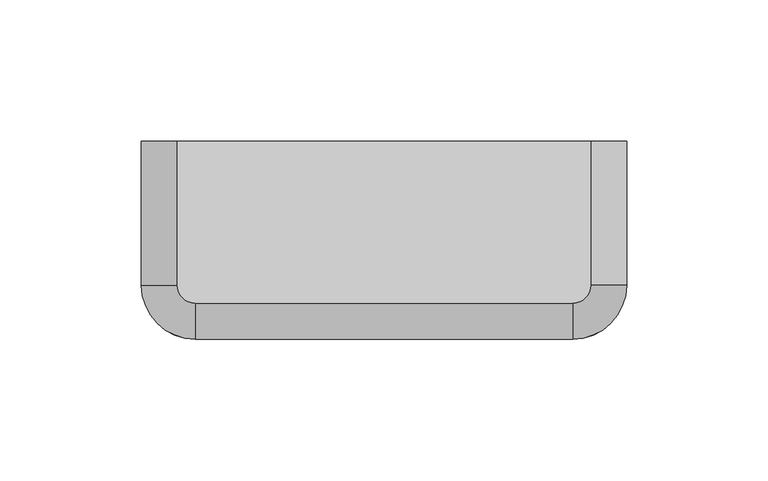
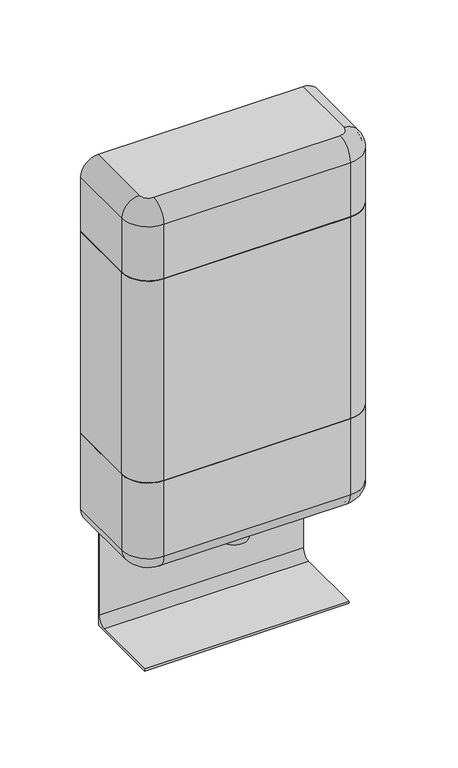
"""IFC4 building model written with IfcOpenShell, lengths in millimetres: proxy geometry, A5077 Dispenser_Hand Sanitzer, Hands free : A5077 Dispenser_Hand Sanitzer, Hands free."""

from ifc_helpers import new_model, si_unit, point, frame, frame_2d, origin, place, context, project, spatial, polyline, circle_curve, ellipse_curve, trimmed, segment, composite_curve, outline, extrude, source, transform, mapped, element, save
from ifc_brep_helpers import plane_surface, cylinder_surface, revolved_surface, advanced_brep


def specialty_equipment_6e2372c1(model_context):
    return source(origin(), model_context, "Body", "SolidModel", [
        extrude(outline(composite_curve([segment(polyline([(-57.15, 0.0), (-57.15, 1.5875), (-7.14375, 1.5875)]), True, "CONTINUOUS"), segment(trimmed(circle_curve(frame_2d((-7.14375, 7.9375)), 6.35), [point((-7.14375, 1.5875))], [point((-0.79375, 7.9375))], True, "CARTESIAN"), True, "CONTINUOUS"), segment(polyline([(-0.79375, 7.9375), (-0.79375, 80.9625), (0.0, 80.9625), (0.0, 0.0), (-57.15, 0.0)]), True, "CONTINUOUS")], self_intersect=False)), frame((-73.025, 0.0, 0.0), z_axis=(1.0, 0.0, 0.0), x_axis=(0.0, 1.0, 0.0)), (0.0, 0.0, 1.0), 146.05),
        advanced_brep(
        [(-85.725, 0.0, 92.075), (-85.725, 0.0, 149.225), (-84.1375, 0.0, 149.225), (-84.1375, 0.0, 92.075), (-73.025, 0.0, 80.9625), (-73.025, 0.0, 79.375), (-85.725, -50.8, 92.075), (-85.725, -50.8, 149.225), (-66.675, -69.85, 149.225), (66.675, -69.85, 149.225), (85.725, -50.8, 149.225), (85.725, 0.0, 149.225), (84.1375, 0.0, 149.225), (84.1375, -50.8, 149.225), (66.675, -68.2625, 149.225), (-66.675, -68.2625, 149.225), (-84.1375, -50.8, 149.225), (-84.1375, -50.8, 92.075), (-73.025, -50.8, 80.9625), (-73.025, -50.8, 79.375), (-66.675, -69.85, 92.075), (-66.675, -68.2625, 92.075), (-66.675, -57.15, 80.9625), (-66.675, -57.15, 79.375), (66.675, -69.85, 92.075), (66.675, -68.2625, 92.075), (66.675, -57.15, 80.9625), (66.675, -57.15, 79.375), (85.725, -50.8, 92.075), (84.1375, -50.8, 92.075), (73.025, -50.8, 80.9625), (73.025, -50.8, 79.375), (85.725, 0.0, 92.075), (73.025, 0.0, 79.375), (73.025, 0.0, 80.9625), (84.1375, 0.0, 92.075)],
        [
            (0, 1),
            (1, 2),
            (2, 3),
            (3, 4, circle_curve(frame((-73.025, 0.0, 92.075), z_axis=(0.0, -1.0, 0.0), x_axis=(1.0, 0.0, 0.0)), 11.1125)),
            (4, 5),
            (5, 0, circle_curve(frame((-73.025, 0.0, 92.075), z_axis=(0.0, 1.0, 0.0), x_axis=(1.0, 0.0, 0.0)), 12.7)),
            (0, 6),
            (6, 7),
            (7, 1),
            (7, 8, circle_curve(frame((-66.675, -50.8, 149.225), z_axis=(0.0, 0.0, 1.0), x_axis=(-1.0, 0.0, 0.0)), 19.05)),
            (8, 9),
            (9, 10, circle_curve(frame((66.675, -50.8, 149.225), z_axis=(0.0, 0.0, 1.0), x_axis=(0.0, -1.0, 0.0)), 19.05)),
            (10, 11),
            (11, 12),
            (12, 13),
            (13, 14, circle_curve(frame((66.675, -50.8, 149.225), z_axis=(0.0, 0.0, -1.0), x_axis=(0.0, -1.0, 0.0)), 17.4625)),
            (14, 15),
            (15, 16, circle_curve(frame((-66.675, -50.8, 149.225), z_axis=(0.0, 0.0, -1.0), x_axis=(-1.0, 0.0, 0.0)), 17.4625)),
            (16, 2),
            (16, 17),
            (17, 3),
            (17, 18, circle_curve(frame((-73.025, -50.8, 92.075), z_axis=(0.0, -1.0, 0.0), x_axis=(1.0, 0.0, 0.0)), 11.1125)),
            (18, 4),
            (18, 19),
            (19, 5),
            (19, 6, circle_curve(frame((-73.025, -50.8, 92.075), z_axis=(0.0, 1.0, 0.0), x_axis=(1.0, 0.0, 0.0)), 12.7)),
            (6, 20, circle_curve(frame((-66.675, -50.8, 92.075), z_axis=(0.0, 0.0, 1.0), x_axis=(-1.0, 0.0, 0.0)), 19.05)),
            (20, 8),
            (21, 17, circle_curve(frame((-66.675, -50.8, 92.075), z_axis=(0.0, 0.0, -1.0), x_axis=(-1.0, 0.0, 0.0)), 17.4625)),
            (15, 21),
            (22, 18, circle_curve(frame((-66.675, -50.8, 80.9625), z_axis=(0.0, 0.0, -1.0), x_axis=(-1.0, 0.0, 0.0)), 6.35)),
            (21, 22, circle_curve(frame((-66.675, -57.15, 92.075), z_axis=(1.0, 0.0, 0.0), x_axis=(0.0, 1.0, 0.0)), 11.1125)),
            (23, 19, circle_curve(frame((-66.675, -50.8, 79.375), z_axis=(0.0, 0.0, -1.0), x_axis=(-1.0, 0.0, 0.0)), 6.35)),
            (22, 23),
            (23, 20, circle_curve(frame((-66.675, -57.15, 92.075), z_axis=(-1.0, 0.0, 0.0), x_axis=(0.0, 1.0, 0.0)), 12.7)),
            (20, 24),
            (24, 9),
            (14, 25),
            (25, 21),
            (25, 26, circle_curve(frame((66.675, -57.15, 92.075), z_axis=(1.0, 0.0, 0.0), x_axis=(0.0, 1.0, 0.0)), 11.1125)),
            (26, 22),
            (26, 27),
            (27, 23),
            (27, 24, circle_curve(frame((66.675, -57.15, 92.075), z_axis=(-1.0, 0.0, 0.0), x_axis=(0.0, 1.0, 0.0)), 12.7)),
            (24, 28, circle_curve(frame((66.675, -50.8, 92.075), z_axis=(0.0, 0.0, 1.0), x_axis=(0.0, -1.0, 0.0)), 19.05)),
            (28, 10),
            (29, 25, circle_curve(frame((66.675, -50.8, 92.075), z_axis=(0.0, 0.0, -1.0), x_axis=(0.0, -1.0, 0.0)), 17.4625)),
            (13, 29),
            (30, 26, circle_curve(frame((66.675, -50.8, 80.9625), z_axis=(0.0, 0.0, -1.0), x_axis=(0.0, -1.0, 0.0)), 6.35)),
            (29, 30, circle_curve(frame((73.025, -50.8, 92.075), z_axis=(0.0, 1.0, 0.0), x_axis=(-1.0, 0.0, 0.0)), 11.1125)),
            (31, 27, circle_curve(frame((66.675, -50.8, 79.375), z_axis=(0.0, 0.0, -1.0), x_axis=(0.0, -1.0, 0.0)), 6.35)),
            (30, 31),
            (31, 28, circle_curve(frame((73.025, -50.8, 92.075), z_axis=(0.0, -1.0, 0.0), x_axis=(-1.0, 0.0, 0.0)), 12.7)),
            (32, 33, circle_curve(frame((73.025, 0.0, 92.075), z_axis=(0.0, 1.0, 0.0), x_axis=(-1.0, 0.0, 0.0)), 12.7)),
            (33, 34),
            (34, 35, circle_curve(frame((73.025, 0.0, 92.075), z_axis=(0.0, -1.0, 0.0), x_axis=(-1.0, 0.0, 0.0)), 11.1125)),
            (35, 12),
            (11, 32),
            (28, 32),
            (35, 29),
            (34, 30),
            (33, 31),
        ],
        [
            plane_surface(frame((-85.725, 0.0, 79.375), z_axis=(0.0, 1.0, 0.0), x_axis=(0.0, 0.0, 1.0))),
            plane_surface(frame((-85.725, 0.0, 92.075), z_axis=(-1.0, 0.0, 0.0), x_axis=(0.0, -1.0, 0.0))),
            plane_surface(frame((-85.725, 0.0, 149.225), z_axis=(0.0, 0.0, 1.0), x_axis=(0.0, -1.0, 0.0))),
            plane_surface(frame((-84.1375, 0.0, 149.225), z_axis=(1.0, 0.0, 0.0), x_axis=(0.0, -1.0, 0.0))),
            revolved_surface(polyline([(-61.91250000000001, -50.8, 92.075), (-61.91250000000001, 0.0, 92.075)]), (-73.025, 0.0, 92.075), (0.0, -1.0, 0.0)),
            plane_surface(frame((-73.025, 0.0, 80.9625), z_axis=(1.0, 0.0, 0.0), x_axis=(0.0, -1.0, 0.0))),
            cylinder_surface(frame((-73.025, 0.0, 92.075), z_axis=(0.0, 1.0, 0.0), x_axis=(1.0, 0.0, 0.0)), 12.7),
            cylinder_surface(frame((-66.675, -50.8, 79.375), z_axis=(0.0, 0.0, 1.0), x_axis=(-1.0, 0.0, 0.0)), 19.05),
            revolved_surface(polyline([(-84.13749999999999, -50.8, 149.225), (-84.13749999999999, -50.8, 92.075)]), (-66.675, -50.8, 79.375), (0.0, 0.0, 1.0)),
            revolved_surface(trimmed(ellipse_curve(frame((-73.025, -50.8, 92.075), z_axis=(0.0, -1.0, 0.0), x_axis=(1.0, 0.0, 0.0)), 11.1125, 11.1125), [point((-84.1375, -50.8, 92.075))], [point((-73.025, -50.8, 80.9625))], True, "CARTESIAN"), (-66.675, -50.8, 79.375), (0.0, 0.0, 1.0)),
            revolved_surface(polyline([(-73.02499999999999, -50.8, 80.9625), (-73.02499999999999, -50.8, 79.375)]), (-66.675, -50.8, 79.375), (0.0, 0.0, 1.0)),
            revolved_surface(trimmed(ellipse_curve(frame((-73.025, -50.8, 92.075), z_axis=(0.0, 1.0, 0.0), x_axis=(1.0, 0.0, 0.0)), 12.7, 12.7), [point((-73.025, -50.8, 79.375))], [point((-85.725, -50.8, 92.075))], True, "CARTESIAN"), (-66.675, -50.8, 79.375), (0.0, 0.0, 1.0)),
            plane_surface(frame((-66.675, -69.85, 92.075), z_axis=(0.0, -1.0, 0.0), x_axis=(1.0, 0.0, 0.0))),
            plane_surface(frame((-66.675, -68.2625, 149.225), z_axis=(0.0, 1.0, 0.0), x_axis=(1.0, 0.0, 0.0))),
            revolved_surface(polyline([(66.675, -46.037499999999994, 92.075), (-66.675, -46.037499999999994, 92.075)]), (-66.675, -57.15, 92.075), (1.0, 0.0, 0.0)),
            plane_surface(frame((-66.675, -57.15, 80.9625), z_axis=(0.0, 1.0, 0.0), x_axis=(1.0, 0.0, 0.0))),
            cylinder_surface(frame((-66.675, -57.15, 92.075), z_axis=(-1.0, 0.0, 0.0), x_axis=(0.0, 1.0, 0.0)), 12.7),
            cylinder_surface(frame((66.675, -50.8, 79.375), z_axis=(0.0, 0.0, 1.0), x_axis=(0.0, -1.0, 0.0)), 19.05),
            revolved_surface(polyline([(66.675, -68.26249999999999, 149.225), (66.675, -68.26249999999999, 92.075)]), (66.675, -50.8, 79.375), (0.0, 0.0, 1.0)),
            revolved_surface(trimmed(ellipse_curve(frame((66.675, -57.15, 92.075), z_axis=(1.0, 0.0, 0.0), x_axis=(0.0, 1.0, 0.0)), 11.1125, 11.1125), [point((66.675, -68.2625, 92.075))], [point((66.675, -57.15, 80.9625))], True, "CARTESIAN"), (66.675, -50.8, 79.375), (0.0, 0.0, 1.0)),
            revolved_surface(polyline([(66.675, -57.15, 80.9625), (66.675, -57.15, 79.375)]), (66.675, -50.8, 79.375), (0.0, 0.0, 1.0)),
            revolved_surface(trimmed(ellipse_curve(frame((66.675, -57.15, 92.075), z_axis=(-1.0, 0.0, 0.0), x_axis=(0.0, 1.0, 0.0)), 12.7, 12.7), [point((66.675, -57.15, 79.375))], [point((66.675, -69.85, 92.075))], True, "CARTESIAN"), (66.675, -50.8, 79.375), (0.0, 0.0, 1.0)),
            plane_surface(frame((85.725, 0.0, 79.375), z_axis=(0.0, 1.0, 0.0), x_axis=(0.0, 0.0, 1.0))),
            plane_surface(frame((85.725, -50.8, 92.075), z_axis=(1.0, 0.0, 0.0), x_axis=(0.0, 1.0, 0.0))),
            plane_surface(frame((84.1375, -50.8, 149.225), z_axis=(-1.0, 0.0, 0.0), x_axis=(0.0, 1.0, 0.0))),
            revolved_surface(polyline([(61.91250000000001, 0.0, 92.075), (61.91250000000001, -50.8, 92.075)]), (73.025, -50.8, 92.075), (0.0, 1.0, 0.0)),
            plane_surface(frame((73.025, -50.8, 80.9625), z_axis=(-1.0, 0.0, 0.0), x_axis=(0.0, 1.0, 0.0))),
            cylinder_surface(frame((73.025, -50.8, 92.075), z_axis=(0.0, -1.0, 0.0), x_axis=(-1.0, 0.0, 0.0)), 12.7),
        ],
        [
            (0, [[1, 2, 3, 4, 5, 6]]),
            (1, [[-1, 7, 8, 9]]),
            (2, [[-2, -9, 10, 11, 12, 13, 14, 15, 16, 17, 18, 19]]),
            (3, [[-3, -19, 20, 21]]),
            (4, [[-4, -21, 22, 23]]),
            (5, [[-5, -23, 24, 25]]),
            (6, [[-6, -25, 26, -7]]),
            (7, [[-10, -8, 27, 28]]),
            (8, [[29, -20, -18, 30]]),
            (9, [[31, -22, -29, 32]]),
            (10, [[33, -24, -31, 34]]),
            (11, [[-27, -26, -33, 35]]),
            (12, [[-28, 36, 37, -11]]),
            (13, [[-30, -17, 38, 39]]),
            (14, [[-32, -39, 40, 41]]),
            (15, [[-34, -41, 42, 43]]),
            (16, [[-35, -43, 44, -36]]),
            (17, [[-12, -37, 45, 46]]),
            (18, [[47, -38, -16, 48]]),
            (19, [[49, -40, -47, 50]]),
            (20, [[51, -42, -49, 52]]),
            (21, [[-45, -44, -51, 53]]),
            (22, [[54, 55, 56, 57, -14, 58]]),
            (23, [[-46, 59, -58, -13]]),
            (24, [[-48, -15, -57, 60]]),
            (25, [[-50, -60, -56, 61]]),
            (26, [[-52, -61, -55, 62]]),
            (27, [[-53, -62, -54, -59]]),
        ],
    ),
        extrude(outline(composite_curve([segment(polyline([(-85.725, -50.8), (-85.725, 0.0), (-84.1375, 0.0), (-84.1375, -50.8)]), True, "CONTINUOUS"), segment(trimmed(circle_curve(frame_2d((-66.675, -50.8)), 17.4625), [point((-84.1375, -50.8))], [point((-66.675, -68.2625))], True, "CARTESIAN"), True, "CONTINUOUS"), segment(polyline([(-66.675, -68.2625), (66.675, -68.2625)]), True, "CONTINUOUS"), segment(trimmed(circle_curve(frame_2d((66.675, -50.8)), 17.4625), [point((66.675, -68.2625))], [point((84.1375, -50.8))], True, "CARTESIAN"), True, "CONTINUOUS"), segment(polyline([(84.1375, -50.8), (84.1375, 0.0), (85.725, 0.0), (85.725, -50.8)]), True, "CONTINUOUS"), segment(trimmed(circle_curve(frame_2d((66.675, -50.8)), 19.05), [point((85.725, -50.8))], [point((66.675, -69.85))], False, "CARTESIAN"), True, "CONTINUOUS"), segment(polyline([(66.675, -69.85), (-66.675, -69.85)]), True, "CONTINUOUS"), segment(trimmed(circle_curve(frame_2d((-66.675, -50.8)), 19.05), [point((-66.675, -69.85))], [point((-85.725, -50.8))], False, "CARTESIAN"), True, "CONTINUOUS")], self_intersect=False)), frame((0.0, 0.0, 149.225), z_axis=(0.0, 0.0, 1.0), x_axis=(1.0, 0.0, 0.0)), (0.0, 0.0, 1.0), 152.5055496),
        extrude(outline(composite_curve([segment(polyline([(66.675, -68.2625), (-66.675, -68.2625)]), True, "CONTINUOUS"), segment(trimmed(circle_curve(frame_2d((-66.675, -50.8)), 17.4625), [point((-66.675, -68.2625))], [point((-84.1375, -50.8))], False, "CARTESIAN"), True, "CONTINUOUS"), segment(polyline([(-84.1375, -50.8), (-84.1375, 0.0), (84.1375, 0.0), (84.1375, -50.8)]), True, "CONTINUOUS"), segment(trimmed(circle_curve(frame_2d((66.675, -50.8)), 17.4625), [point((84.1375, -50.8))], [point((66.675, -68.2625))], False, "CARTESIAN"), True, "CONTINUOUS")], self_intersect=False)), frame((0.0, 0.0, 149.225), z_axis=(0.0, 0.0, 1.0), x_axis=(1.0, 0.0, 0.0)), (0.0, 0.0, 1.0), 111.125),
        extrude(outline(composite_curve([segment(trimmed(circle_curve(frame_2d((0.0, -41.275)), 9.525), [point((-9.525, -41.275))], [point((9.525, -41.275))], False, "CARTESIAN"), True, "CONTINUOUS"), segment(trimmed(circle_curve(frame_2d((0.0, -41.275)), 9.525), [point((9.525, -41.275))], [point((-9.525, -41.275))], False, "CARTESIAN"), True, "CONTINUOUS")], self_intersect=False)), frame((0.0, 0.0, 66.675), z_axis=(0.0, 0.0, 1.0), x_axis=(1.0, 0.0, 0.0)), (0.0, 0.0, 1.0), 12.7),
        extrude(outline(composite_curve([segment(polyline([(-73.025, 0.0), (73.025, 0.0), (73.025, -50.8)]), True, "CONTINUOUS"), segment(trimmed(circle_curve(frame_2d((66.675, -50.8)), 6.35), [point((73.025, -50.8))], [point((66.675, -57.15))], False, "CARTESIAN"), True, "CONTINUOUS"), segment(polyline([(66.675, -57.15), (-66.675, -57.15)]), True, "CONTINUOUS"), segment(trimmed(circle_curve(frame_2d((-66.675, -50.8)), 6.35), [point((-66.675, -57.15))], [point((-73.025, -50.8))], False, "CARTESIAN"), True, "CONTINUOUS"), segment(polyline([(-73.025, -50.8), (-73.025, 0.0)]), True, "CONTINUOUS")], self_intersect=False)), frame((0.0, 0.0, 79.375), z_axis=(0.0, 0.0, 1.0), x_axis=(1.0, 0.0, 0.0)), (0.0, 0.0, 1.0), 1.5875),
        advanced_brep(
        [(73.025, 0.0, 355.6), (-73.025, 0.0, 355.6), (-73.025, -50.8, 355.6), (-66.675, -57.15, 355.6), (66.675, -57.15, 355.6), (73.025, -50.8, 355.6), (-73.025, 0.0, 354.0125), (73.025, 0.0, 354.0125), (73.025, -50.8, 354.0125), (66.675, -57.15, 354.0125), (-66.675, -57.15, 354.0125), (-73.025, -50.8, 354.0125), (85.725, 0.0, 342.9), (85.725, 0.0, 301.7305496), (84.1375, 0.0, 301.7305496), (84.1375, 0.0, 342.9), (-84.1375, 0.0, 342.9), (-84.1375, 0.0, 301.7305496), (-85.725, 0.0, 301.7305496), (-85.725, 0.0, 342.9), (-85.725, -50.8, 342.9), (-84.1375, -50.8, 342.9), (-84.1375, -50.8, 301.7305496), (-66.675, -68.2625, 301.7305496), (66.675, -68.2625, 301.7305496), (84.1375, -50.8, 301.7305496), (85.725, -50.8, 301.7305496), (66.675, -69.85, 301.7305496), (-66.675, -69.85, 301.7305496), (-85.725, -50.8, 301.7305496), (-66.675, -69.85, 342.9), (-66.675, -68.2625, 342.9), (66.675, -69.85, 342.9), (66.675, -68.2625, 342.9), (85.725, -50.8, 342.9), (84.1375, -50.8, 342.9)],
        [
            (0, 1),
            (1, 2),
            (2, 3, circle_curve(frame((-66.675, -50.8, 355.6), z_axis=(0.0, 0.0, 1.0), x_axis=(-1.0, 0.0, 0.0)), 6.35)),
            (3, 4),
            (4, 5, circle_curve(frame((66.675, -50.8, 355.6), z_axis=(0.0, 0.0, 1.0), x_axis=(0.0, -1.0, 0.0)), 6.35)),
            (5, 0),
            (6, 7),
            (7, 8),
            (8, 9, circle_curve(frame((66.675, -50.8, 354.0125), z_axis=(0.0, 0.0, -1.0), x_axis=(0.0, -1.0, 0.0)), 6.35)),
            (9, 10),
            (10, 11, circle_curve(frame((-66.675, -50.8, 354.0125), z_axis=(0.0, 0.0, -1.0), x_axis=(-1.0, 0.0, 0.0)), 6.35)),
            (11, 6),
            (0, 12, circle_curve(frame((73.025, 0.0, 342.9), z_axis=(0.0, 1.0, 0.0), x_axis=(-1.0, 0.0, 0.0)), 12.7)),
            (12, 13),
            (13, 14),
            (14, 15),
            (15, 7, circle_curve(frame((73.025, 0.0, 342.9), z_axis=(0.0, -1.0, 0.0), x_axis=(-1.0, 0.0, 0.0)), 11.1125)),
            (6, 16, circle_curve(frame((-73.025, 0.0, 342.9), z_axis=(0.0, -1.0, 0.0), x_axis=(1.0, 0.0, 0.0)), 11.1125)),
            (16, 17),
            (17, 18),
            (18, 19),
            (19, 1, circle_curve(frame((-73.025, 0.0, 342.9), z_axis=(0.0, 1.0, 0.0), x_axis=(1.0, 0.0, 0.0)), 12.7)),
            (19, 20),
            (20, 2, circle_curve(frame((-73.025, -50.8, 342.9), z_axis=(0.0, 1.0, 0.0), x_axis=(1.0, 0.0, 0.0)), 12.7)),
            (11, 21, circle_curve(frame((-73.025, -50.8, 342.9), z_axis=(0.0, -1.0, 0.0), x_axis=(1.0, 0.0, 0.0)), 11.1125)),
            (21, 16),
            (21, 22),
            (22, 17),
            (22, 23, circle_curve(frame((-66.675, -50.8, 301.7305496), z_axis=(0.0, 0.0, 1.0), x_axis=(-1.0, 0.0, 0.0)), 17.4625)),
            (23, 24),
            (24, 25, circle_curve(frame((66.675, -50.8, 301.7305496), z_axis=(0.0, 0.0, 1.0), x_axis=(0.0, -1.0, 0.0)), 17.4625)),
            (25, 14),
            (13, 26),
            (26, 27, circle_curve(frame((66.675, -50.8, 301.7305496), z_axis=(0.0, 0.0, -1.0), x_axis=(0.0, -1.0, 0.0)), 19.05)),
            (27, 28),
            (28, 29, circle_curve(frame((-66.675, -50.8, 301.7305496), z_axis=(0.0, 0.0, -1.0), x_axis=(-1.0, 0.0, 0.0)), 19.05)),
            (29, 18),
            (29, 20),
            (20, 30, circle_curve(frame((-66.675, -50.8, 342.9), z_axis=(0.0, 0.0, 1.0), x_axis=(-1.0, 0.0, 0.0)), 19.05)),
            (30, 3, circle_curve(frame((-66.675, -57.15, 342.9), z_axis=(-1.0, 0.0, 0.0), x_axis=(0.0, 1.0, 0.0)), 12.7)),
            (10, 31, circle_curve(frame((-66.675, -57.15, 342.9), z_axis=(1.0, 0.0, 0.0), x_axis=(0.0, 1.0, 0.0)), 11.1125)),
            (31, 21, circle_curve(frame((-66.675, -50.8, 342.9), z_axis=(0.0, 0.0, -1.0), x_axis=(-1.0, 0.0, 0.0)), 17.4625)),
            (31, 23),
            (28, 30),
            (30, 32),
            (32, 4, circle_curve(frame((66.675, -57.15, 342.9), z_axis=(-1.0, 0.0, 0.0), x_axis=(0.0, 1.0, 0.0)), 12.7)),
            (9, 33, circle_curve(frame((66.675, -57.15, 342.9), z_axis=(1.0, 0.0, 0.0), x_axis=(0.0, 1.0, 0.0)), 11.1125)),
            (33, 31),
            (33, 24),
            (27, 32),
            (32, 34, circle_curve(frame((66.675, -50.8, 342.9), z_axis=(0.0, 0.0, 1.0), x_axis=(0.0, -1.0, 0.0)), 19.05)),
            (34, 5, circle_curve(frame((73.025, -50.8, 342.9), z_axis=(0.0, -1.0, 0.0), x_axis=(-1.0, 0.0, 0.0)), 12.7)),
            (8, 35, circle_curve(frame((73.025, -50.8, 342.9), z_axis=(0.0, 1.0, 0.0), x_axis=(-1.0, 0.0, 0.0)), 11.1125)),
            (35, 33, circle_curve(frame((66.675, -50.8, 342.9), z_axis=(0.0, 0.0, -1.0), x_axis=(0.0, -1.0, 0.0)), 17.4625)),
            (35, 25),
            (26, 34),
            (34, 12),
            (15, 35),
        ],
        [
            plane_surface(frame((-73.025, -50.8, 355.6), z_axis=(0.0, 0.0, 1.0), x_axis=(0.0, -1.0, 0.0))),
            plane_surface(frame((-73.025, -50.8, 354.0125), z_axis=(0.0, 0.0, -1.0), x_axis=(0.0, 1.0, 0.0))),
            plane_surface(frame((73.025, 0.0, 355.6), z_axis=(0.0, 1.0, 0.0), x_axis=(0.0, 0.0, -1.0))),
            cylinder_surface(frame((-73.025, 0.0, 342.9), z_axis=(0.0, 1.0, 0.0), x_axis=(1.0, 0.0, 0.0)), 12.7),
            revolved_surface(polyline([(-61.91250000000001, -50.8, 342.9), (-61.91250000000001, 0.0, 342.9)]), (-73.025, 0.0, 342.9), (0.0, -1.0, 0.0)),
            plane_surface(frame((-84.1375, 0.0, 342.9), z_axis=(1.0, 0.0, 0.0), x_axis=(0.0, -1.0, 0.0))),
            plane_surface(frame((-84.1375, 0.0, 301.7305496), z_axis=(0.0, 0.0, -1.0), x_axis=(0.0, -1.0, 0.0))),
            plane_surface(frame((-85.725, 0.0, 301.7305496), z_axis=(-1.0, 0.0, 0.0), x_axis=(0.0, -1.0, 0.0))),
            revolved_surface(trimmed(ellipse_curve(frame((-73.025, -50.8, 342.9), z_axis=(0.0, 1.0, 0.0), x_axis=(1.0, 0.0, 0.0)), 12.7, 12.7), [point((-85.725, -50.8, 342.9))], [point((-73.025, -50.8, 355.6))], True, "CARTESIAN"), (-66.675, -50.8, 292.1), (0.0, 0.0, 1.0)),
            revolved_surface(trimmed(ellipse_curve(frame((-73.025, -50.8, 342.9), z_axis=(0.0, -1.0, 0.0), x_axis=(1.0, 0.0, 0.0)), 11.1125, 11.1125), [point((-73.025, -50.8, 354.0125))], [point((-84.1375, -50.8, 342.9))], True, "CARTESIAN"), (-66.675, -50.8, 292.1), (0.0, 0.0, 1.0)),
            revolved_surface(polyline([(-84.13749999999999, -50.8, 342.9), (-84.13749999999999, -50.8, 301.7305496)]), (-66.675, -50.8, 292.1), (0.0, 0.0, 1.0)),
            cylinder_surface(frame((-66.675, -50.8, 292.1), z_axis=(0.0, 0.0, 1.0), x_axis=(-1.0, 0.0, 0.0)), 19.05),
            cylinder_surface(frame((-66.675, -57.15, 342.9), z_axis=(-1.0, 0.0, 0.0), x_axis=(0.0, 1.0, 0.0)), 12.7),
            revolved_surface(polyline([(66.675, -46.037499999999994, 342.9), (-66.675, -46.037499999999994, 342.9)]), (-66.675, -57.15, 342.9), (1.0, 0.0, 0.0)),
            plane_surface(frame((-66.675, -68.2625, 342.9), z_axis=(0.0, 1.0, 0.0), x_axis=(1.0, 0.0, 0.0))),
            plane_surface(frame((-66.675, -69.85, 301.7305496), z_axis=(0.0, -1.0, 0.0), x_axis=(1.0, 0.0, 0.0))),
            revolved_surface(trimmed(ellipse_curve(frame((66.675, -57.15, 342.9), z_axis=(-1.0, 0.0, 0.0), x_axis=(0.0, 1.0, 0.0)), 12.7, 12.7), [point((66.675, -69.85, 342.9))], [point((66.675, -57.15, 355.6))], True, "CARTESIAN"), (66.675, -50.8, 292.1), (0.0, 0.0, 1.0)),
            revolved_surface(trimmed(ellipse_curve(frame((66.675, -57.15, 342.9), z_axis=(1.0, 0.0, 0.0), x_axis=(0.0, 1.0, 0.0)), 11.1125, 11.1125), [point((66.675, -57.15, 354.0125))], [point((66.675, -68.2625, 342.9))], True, "CARTESIAN"), (66.675, -50.8, 292.1), (0.0, 0.0, 1.0)),
            revolved_surface(polyline([(66.675, -68.26249999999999, 342.9), (66.675, -68.26249999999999, 301.7305496)]), (66.675, -50.8, 292.1), (0.0, 0.0, 1.0)),
            cylinder_surface(frame((66.675, -50.8, 292.1), z_axis=(0.0, 0.0, 1.0), x_axis=(0.0, -1.0, 0.0)), 19.05),
            cylinder_surface(frame((73.025, -50.8, 342.9), z_axis=(0.0, -1.0, 0.0), x_axis=(-1.0, 0.0, 0.0)), 12.7),
            revolved_surface(polyline([(61.91250000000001, 0.0, 342.9), (61.91250000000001, -50.8, 342.9)]), (73.025, -50.8, 342.9), (0.0, 1.0, 0.0)),
            plane_surface(frame((84.1375, -50.8, 342.9), z_axis=(-1.0, 0.0, 0.0), x_axis=(0.0, 1.0, 0.0))),
            plane_surface(frame((85.725, -50.8, 301.7305496), z_axis=(1.0, 0.0, 0.0), x_axis=(0.0, 1.0, 0.0))),
        ],
        [
            (0, [[1, 2, 3, 4, 5, 6]]),
            (1, [[7, 8, 9, 10, 11, 12]]),
            (2, [[-1, 13, 14, 15, 16, 17, -7, 18, 19, 20, 21, 22]]),
            (3, [[-22, 23, 24, -2]]),
            (4, [[-18, -12, 25, 26]]),
            (5, [[-19, -26, 27, 28]]),
            (6, [[-20, -28, 29, 30, 31, 32, -15, 33, 34, 35, 36, 37]]),
            (7, [[-21, -37, 38, -23]]),
            (8, [[-24, 39, 40, -3]]),
            (9, [[-25, -11, 41, 42]]),
            (10, [[-27, -42, 43, -29]]),
            (11, [[-36, 44, -39, -38]]),
            (12, [[-40, 45, 46, -4]]),
            (13, [[-41, -10, 47, 48]]),
            (14, [[-30, -43, -48, 49]]),
            (15, [[-35, 50, -45, -44]]),
            (16, [[-46, 51, 52, -5]]),
            (17, [[-47, -9, 53, 54]]),
            (18, [[-31, -49, -54, 55]]),
            (19, [[-34, 56, -51, -50]]),
            (20, [[-52, 57, -13, -6]]),
            (21, [[-53, -8, -17, 58]]),
            (22, [[-32, -55, -58, -16]]),
            (23, [[-33, -14, -57, -56]]),
        ],
    ),
    ])


if __name__ == "__main__":
    model = new_model("IFC4")
    model_context = context("Model", 3, world=origin())
    ifc_project = project(units=[si_unit("LENGTHUNIT", "METRE", prefix="MILLI")], contexts=[model_context])
    site = spatial("IfcSite", under=ifc_project)
    building = spatial("IfcBuilding", under=site)
    placement = place(None, origin())
    specialty_equipment_shape = specialty_equipment_6e2372c1(model_context)
    element("IfcBuildingElementProxy", 1, Name="A5077 Dispenser_Hand Sanitzer, Hands free : A5077 Dispenser_Hand Sanitzer, Hands free", ObjectType="A5077 Dispenser_Hand Sanitzer, Hands free : A5077 Dispenser_Hand Sanitzer, Hands free", at=placement, inside=building, context=model_context, shape_type="MappedRepresentation", body=[
        mapped(specialty_equipment_shape, transform((0.0, 0.0, 0.0), x_axis=(1.0, 0.0, 0.0), y_axis=(0.0, 1.0, 0.0), z_axis=(0.0, 0.0, 1.0))),
    ])
    save(model, "model.ifc")
